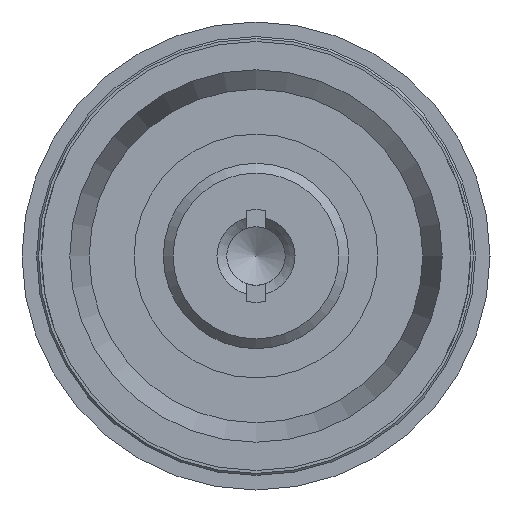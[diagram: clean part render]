
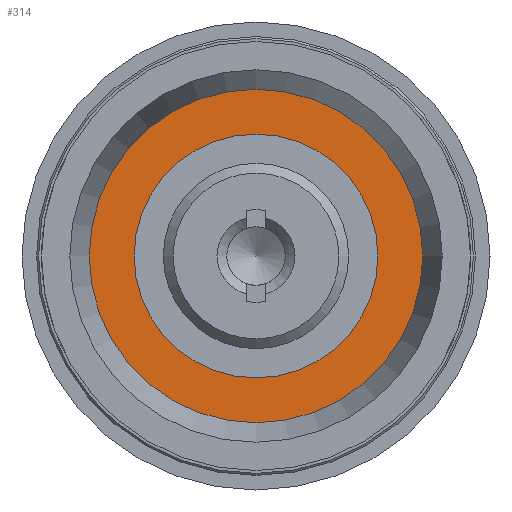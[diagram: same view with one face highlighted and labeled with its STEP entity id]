
A CAD part, left-side view. The second image highlights one B-rep face of the part: STEP entity #314.
In plain terms, the highlighted planar face has unit normal (-1, 0, 0).
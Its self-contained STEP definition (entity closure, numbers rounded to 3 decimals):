
#141=FACE_BOUND('',#446,.T.);
#142=FACE_BOUND('',#447,.T.);
#245=CIRCLE('',#1044,1.25);
#247=CIRCLE('',#1047,1.85);
#314=ADVANCED_FACE('',(#141,#142),#385,.F.);
#385=PLANE('',#1048);
#446=EDGE_LOOP('',(#586));
#447=EDGE_LOOP('',(#587));
#586=ORIENTED_EDGE('',*,*,#876,.T.);
#587=ORIENTED_EDGE('',*,*,#874,.F.);
#778=VERTEX_POINT('',#1522);
#780=VERTEX_POINT('',#1527);
#874=EDGE_CURVE('',#778,#778,#245,.T.);
#876=EDGE_CURVE('',#780,#780,#247,.T.);
#1044=AXIS2_PLACEMENT_3D('',#1521,#1218,#1219);
#1047=AXIS2_PLACEMENT_3D('',#1526,#1224,#1225);
#1048=AXIS2_PLACEMENT_3D('',#1528,#1226,#1227);
#1218=DIRECTION('',(-1.,0.,0.));
#1219=DIRECTION('',(0.,0.,1.));
#1224=DIRECTION('',(-1.,0.,0.));
#1225=DIRECTION('',(0.,0.,1.));
#1226=DIRECTION('',(1.,0.,0.));
#1227=DIRECTION('',(0.,0.,-1.));
#1521=CARTESIAN_POINT('',(4.04,0.,0.));
#1522=CARTESIAN_POINT('',(4.04,0.,1.25));
#1526=CARTESIAN_POINT('',(4.04,0.,0.));
#1527=CARTESIAN_POINT('',(4.04,0.,1.85));
#1528=CARTESIAN_POINT('',(4.04,-1.85,0.));
